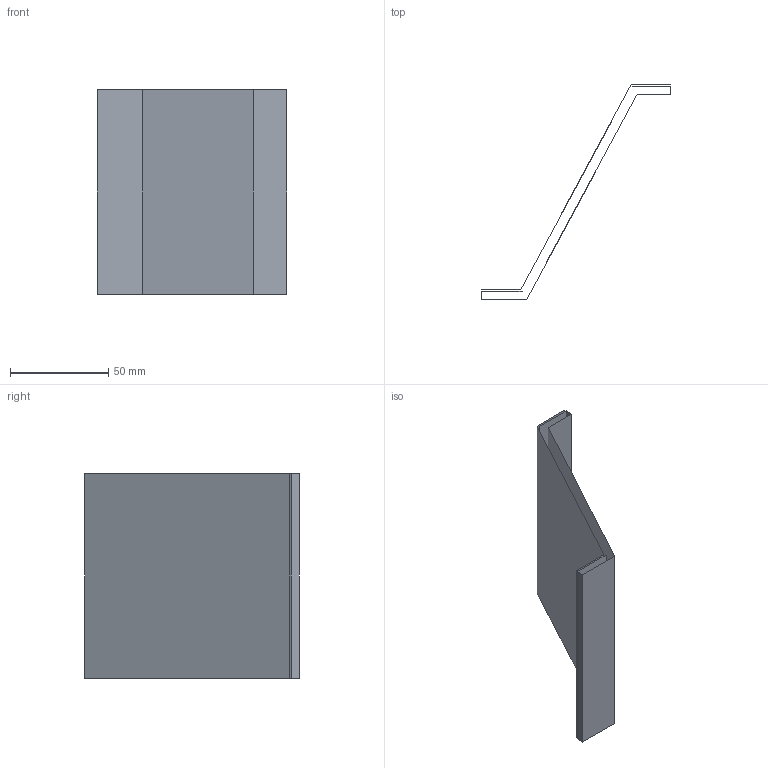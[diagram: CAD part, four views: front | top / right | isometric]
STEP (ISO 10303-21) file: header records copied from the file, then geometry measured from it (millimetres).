
FILE_DESCRIPTION(('CATIA V5 STEP Exchange'),'2;1');
FILE_NAME('C:\_Andres\UNIVERSIDAD\IQS\ASIGNATURAS\DAO\EXF\EXF-16172c\2inicio\Bonilla_Arrufat_Ej06_v4.stp','2017-03-05T21:01:22+00:00',('none'),('none'),'CATIA Version 5-6 Release 2014 SP1 HF18','CATIA V5 STEP AP203','none');
FILE_SCHEMA(('CONFIG_CONTROL_DESIGN'));
Length unit declared in the file: millimetre
Products named in the file (1): Bonilla_Arrufat_Ej06_v4
Bounding box: 96 x 109 x 104 mm (x, y, z)
Surface area: 37880.7 mm2 (no closed solid volume)
Topology: 0 solids, 2 shells, 10 faces, 42 edges, 36 vertices
Faces by surface type: plane 10
Entity records: 461 total; most frequent: CARTESIAN_POINT 100, DIRECTION 59, ORIENTED_EDGE 40, VECTOR 39, LINE 39, EDGE_CURVE 32, VERTEX_POINT 24, AXIS2_PLACEMENT_3D 11
